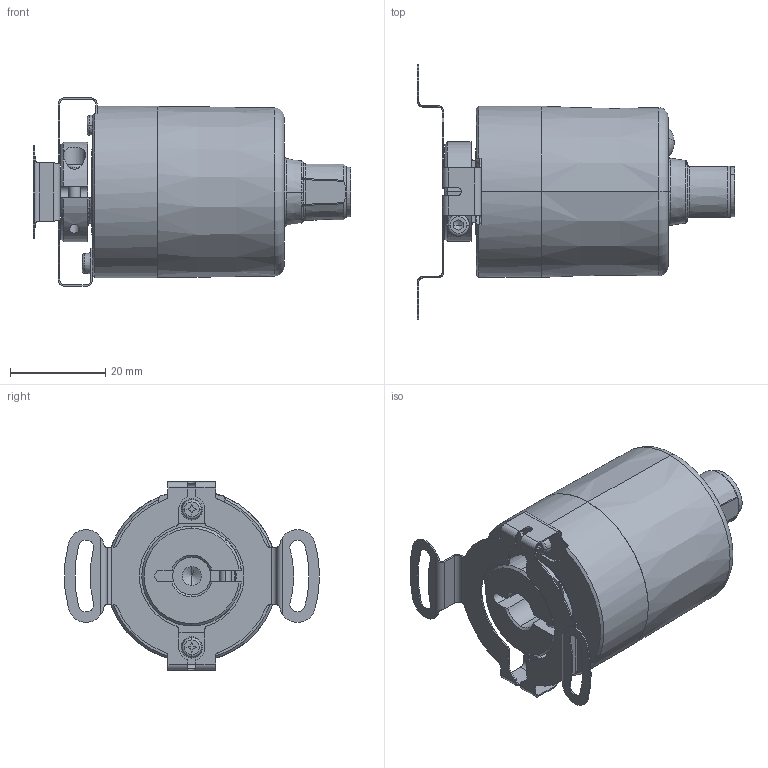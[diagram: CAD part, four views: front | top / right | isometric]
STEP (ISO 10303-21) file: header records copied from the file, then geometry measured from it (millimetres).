
FILE_DESCRIPTION (( 'STEP AP203' ), '1' );
FILE_NAME ('8.3671.54X3.XXXX.STEP', '2016-11-24T10:53:23', ( 'LauferA' ), ( 'Microsoft' ), 'SwSTEP 2.0', 'SolidWorks 2013', '' );
FILE_SCHEMA (( 'CONFIG_CONTROL_DESIGN' ));
Length unit declared in the file: millimetre
Products named in the file (1): 8.3671.54X3.XXXX
Bounding box: 66.7 x 53.5 x 39.6 mm (x, y, z)
Volume: 21709.5 mm3; surface area: 21398 mm2
Topology: 10 solids, 10 shells, 827 faces, 1986 edges, 1216 vertices
Faces by surface type: cylinder 284, plane 215, cone 129, torus 98, bspline 88, sphere 13
Entity records: 26853 total; most frequent: CARTESIAN_POINT 7849, DIRECTION 4092, ORIENTED_EDGE 3876, EDGE_CURVE 1938, AXIS2_PLACEMENT_3D 1657, VERTEX_POINT 1204, EDGE_LOOP 920, CIRCLE 917
